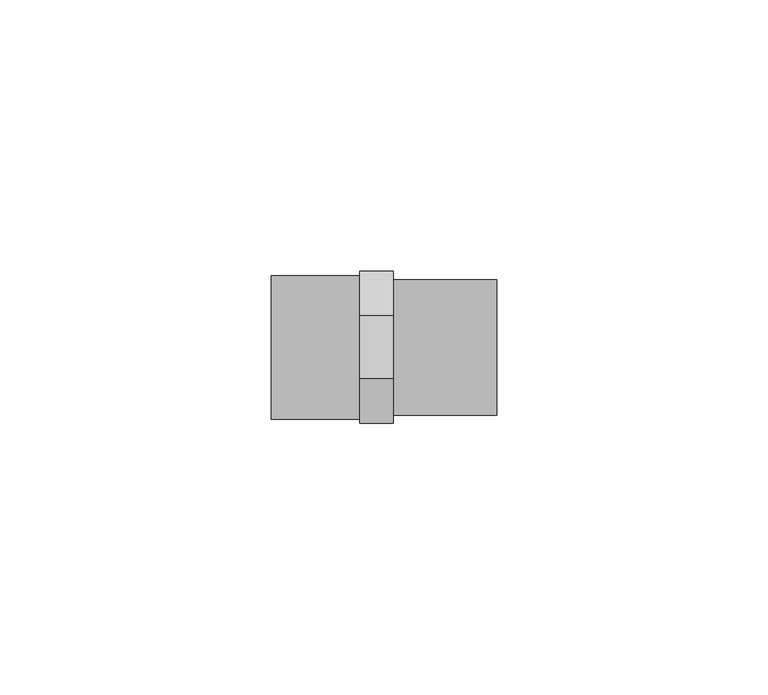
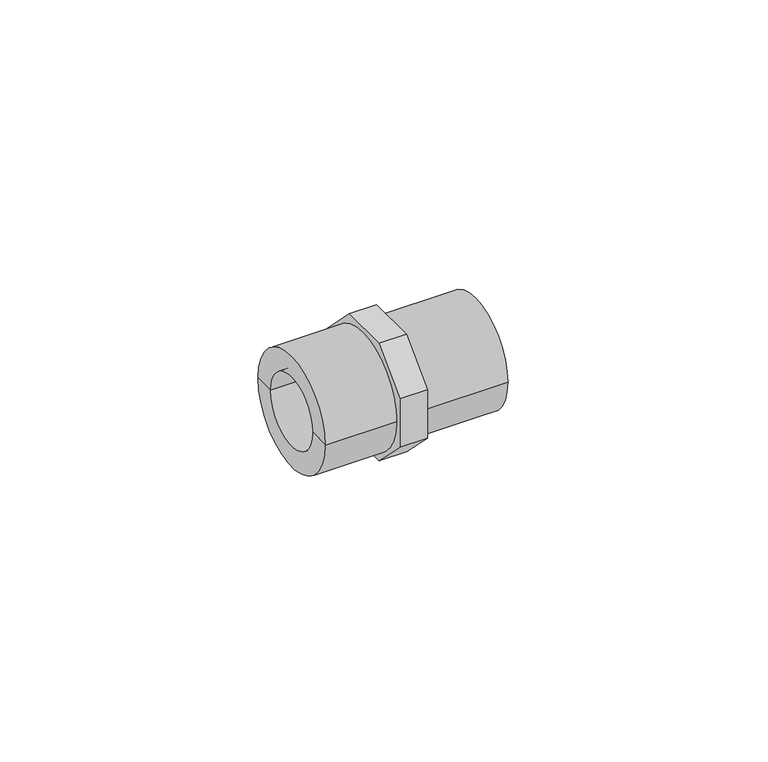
"""IFC4 building model written with IfcOpenShell, lengths in millimetres: pipe fitting geometry, Durapipe_PipeFitting_PVC_MaleThreadedAdaptors : 25 x 20 x 3⁄4."""

from ifc_helpers import new_model, si_unit, point, frame, origin, origin_2d, place, context, project, spatial, polyline, circle_curve, trimmed, segment, composite_curve, outline, extrude, source, transform, mapped, element, save
from ifc_brep_helpers import plane_surface, cylinder_surface, revolved_surface, advanced_brep


def pipe_fitting_60de37bf(model_context):
    return source(origin(), model_context, "Body", "SolidModel", [
        extrude(outline(polyline([(14.0, 5.7989899), (14.0, -5.7989899), (5.7989899, -14.0), (-5.7989899, -14.0), (-14.0, -5.7989899), (-14.0, 5.7989899), (-5.7989899, 14.0), (5.7989899, 14.0), (14.0, 5.7989899)]), holes=[composite_curve([segment(trimmed(circle_curve(origin_2d(), 8.25), [point((8.25, 0.0))], [point((-8.25, 0.0))], True, "CARTESIAN"), True, "CONTINUOUS"), segment(trimmed(circle_curve(origin_2d(), 8.25), [point((-8.25, 0.0))], [point((8.25, 0.0))], True, "CARTESIAN"), True, "CONTINUOUS")], self_intersect=False)]), frame((-6.2, 0.0, 0.0), z_axis=(1.0, 0.0, 0.0), x_axis=(0.0, 1.0, 0.0)), (0.0, 0.0, 1.0), 6.2),
        advanced_brep(
        [(0.0, -12.5, 0.0), (0.0, 12.5, 0.0), (19.0, 12.5, 0.0), (19.0, -12.5, 0.0), (19.0, 10.0, 0.0), (19.0, -10.0, 0.0), (0.0, 0.0, 0.0), (3.0, 10.0, 0.0), (3.0, -10.0, 0.0), (3.0, 0.0, 0.0)],
        [
            (0, 1, circle_curve(frame((0.0, 0.0, 0.0), z_axis=(1.0, 0.0, 0.0), x_axis=(0.0, 1.0, 0.0)), 12.5)),
            (1, 2),
            (2, 3, circle_curve(frame((19.0, 0.0, 0.0), z_axis=(-1.0, 0.0, 0.0), x_axis=(0.0, 1.0, 0.0)), 12.5)),
            (3, 0),
            (1, 0, circle_curve(frame((0.0, 0.0, 0.0), z_axis=(1.0, 0.0, 0.0), x_axis=(0.0, 1.0, 0.0)), 12.5)),
            (3, 2, circle_curve(frame((19.0, 0.0, 0.0), z_axis=(-1.0, 0.0, 0.0), x_axis=(0.0, 1.0, 0.0)), 12.5)),
            (2, 4),
            (4, 5, circle_curve(frame((19.0, 0.0, 0.0), z_axis=(-1.0, 0.0, 0.0), x_axis=(0.0, 1.0, 0.0)), 10.0)),
            (5, 3),
            (5, 4, circle_curve(frame((19.0, 0.0, 0.0), z_axis=(-1.0, 0.0, 0.0), x_axis=(0.0, 1.0, 0.0)), 10.0)),
            (0, 6),
            (6, 1),
            (7, 8, circle_curve(frame((3.0, 0.0, 0.0), z_axis=(-1.0, 0.0, 0.0), x_axis=(0.0, 1.0, 0.0)), 10.0)),
            (8, 5),
            (4, 7),
            (8, 7, circle_curve(frame((3.0, 0.0, 0.0), z_axis=(-1.0, 0.0, 0.0), x_axis=(0.0, 1.0, 0.0)), 10.0)),
            (7, 9),
            (9, 8),
        ],
        [
            cylinder_surface(frame((420.4572068, 0.0, 0.0), z_axis=(-1.0, 0.0, 0.0), x_axis=(0.0, 1.0, 0.0)), 12.5),
            plane_surface(frame((19.0, 0.0, 0.0), z_axis=(1.0, 0.0, 0.0), x_axis=(0.0, 1.0, 0.0))),
            plane_surface(frame((0.0, 0.0, 0.0), z_axis=(-1.0, 0.0, 0.0), x_axis=(0.0, 1.0, 0.0))),
            revolved_surface(polyline([(3.0, 10.0, 0.0), (19.0, 10.0, 0.0)]), (32.5575137, 0.0, 0.0), (-1.0, 0.0, 0.0)),
            plane_surface(frame((3.0, 0.0, 0.0), z_axis=(1.0, 0.0, 0.0), x_axis=(0.0, 1.0, 0.0))),
        ],
        [
            (0, [[1, 2, 3, 4]]),
            (0, [[-2, 5, -4, 6]]),
            (1, [[-3, 7, 8, 9]]),
            (1, [[-6, -9, 10, -7]]),
            (2, [[-1, 11, 12]]),
            (2, [[-5, -12, -11]]),
            (3, [[13, 14, -8, 15]]),
            (3, [[16, -15, -10, -14]]),
            (4, [[-13, 17, 18]]),
            (4, [[-16, -18, -17]]),
        ],
    ),
        advanced_brep(
        [(-6.2, -8.25, 0.0), (-6.2, 8.25, 0.0), (-22.5, 8.25, 0.0), (-22.5, -8.25, 0.0), (-6.2, -13.2, 0.0), (-6.2, 13.2, 0.0), (-22.5, -13.2, 0.0), (-22.5, 13.2, 0.0)],
        [
            (0, 1, circle_curve(frame((-6.2, 0.0, 0.0), z_axis=(1.0, 0.0, 0.0), x_axis=(0.0, 1.0, 0.0)), 8.25)),
            (1, 2),
            (2, 3, circle_curve(frame((-22.5, 0.0, 0.0), z_axis=(-1.0, 0.0, 0.0), x_axis=(0.0, 1.0, 0.0)), 8.25)),
            (3, 0),
            (1, 0, circle_curve(frame((-6.2, 0.0, 0.0), z_axis=(1.0, 0.0, 0.0), x_axis=(0.0, 1.0, 0.0)), 8.25)),
            (3, 2, circle_curve(frame((-22.5, 0.0, 0.0), z_axis=(-1.0, 0.0, 0.0), x_axis=(0.0, 1.0, 0.0)), 8.25)),
            (4, 5, circle_curve(frame((-6.2, 0.0, 0.0), z_axis=(1.0, 0.0, 0.0), x_axis=(0.0, 1.0, 0.0)), 13.2)),
            (5, 1),
            (0, 4),
            (5, 4, circle_curve(frame((-6.2, 0.0, 0.0), z_axis=(1.0, 0.0, 0.0), x_axis=(0.0, 1.0, 0.0)), 13.2)),
            (6, 7, circle_curve(frame((-22.5, 0.0, 0.0), z_axis=(1.0, 0.0, 0.0), x_axis=(0.0, 1.0, 0.0)), 13.2)),
            (7, 5),
            (4, 6),
            (7, 6, circle_curve(frame((-22.5, 0.0, 0.0), z_axis=(1.0, 0.0, 0.0), x_axis=(0.0, 1.0, 0.0)), 13.2)),
            (2, 7),
            (6, 3),
        ],
        [
            revolved_surface(polyline([(-22.5, 8.25, 0.0), (-6.199999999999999, 8.25, 0.0)]), (-37.5, 0.0, 0.0), (-1.0, 0.0, 0.0)),
            plane_surface(frame((-6.2, 0.0, 0.0), z_axis=(1.0, 0.0, 0.0), x_axis=(0.0, 1.0, 0.0))),
            cylinder_surface(frame((-37.5, 0.0, 0.0), z_axis=(-1.0, 0.0, 0.0), x_axis=(0.0, 1.0, 0.0)), 13.2),
            plane_surface(frame((-22.5, 0.0, 0.0), z_axis=(-1.0, 0.0, 0.0), x_axis=(0.0, 1.0, 0.0))),
        ],
        [
            (0, [[1, 2, 3, 4]]),
            (0, [[5, -4, 6, -2]]),
            (1, [[7, 8, -1, 9]]),
            (1, [[10, -9, -5, -8]]),
            (2, [[11, 12, -7, 13]]),
            (2, [[14, -13, -10, -12]]),
            (3, [[-3, 15, -11, 16]]),
            (3, [[-6, -16, -14, -15]]),
        ],
    ),
    ])


if __name__ == "__main__":
    model = new_model("IFC4")
    model_context = context("Model", 3, world=origin())
    ifc_project = project(units=[si_unit("LENGTHUNIT", "METRE", prefix="MILLI")], contexts=[model_context])
    site = spatial("IfcSite", under=ifc_project)
    building = spatial("IfcBuilding", under=site)
    placement = place(None, origin())
    pipe_fitting_shape = pipe_fitting_60de37bf(model_context)
    element("IfcPipeFitting", 1, ObjectType="Durapipe_PipeFitting_PVC_MaleThreadedAdaptors : 25 x 20 x 3⁄4", at=placement, inside=building, context=model_context, shape_type="MappedRepresentation", body=[
        mapped(pipe_fitting_shape, transform((0.0, 0.0, 0.0), x_axis=(1.0, 0.0, 0.0), y_axis=(0.0, 1.0, 0.0), z_axis=(0.0, 0.0, 1.0))),
    ])
    save(model, "model.ifc")
